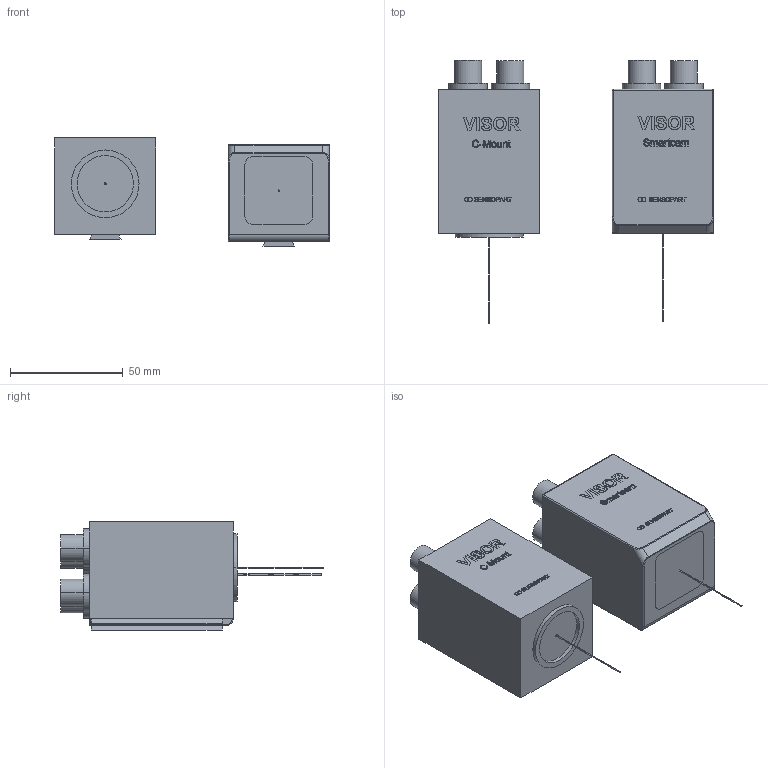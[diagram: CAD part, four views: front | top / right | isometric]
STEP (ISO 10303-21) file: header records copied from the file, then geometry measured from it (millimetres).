
FILE_DESCRIPTION((''),'2;1');
FILE_NAME('15300962.stp','2011-08-12T10:38:15',(''),(''),'Mechanical Desktop 2009','Mechanical Desktop 2009',', , ');
FILE_SCHEMA(('CONFIG_CONTROL_DESIGN'));
Length unit declared in the file: millimetre
Products named in the file (13): 15300591_XXX; FA45 SMARTCAM; ALUPROFIL; STECKER; FRONTSCHEIBE; OPTISCHE ACHSE; POTI; FA45 C-MOUNT; FA45 C-MOUNT_1; ~ALUPROFIL; ~STECKER; Beleuchtungsmodul1; _FA45_Zbau_martin
Assembly tree (17 placements, depth 4):
  15300591_XXX
    FA45 SMARTCAM
      ALUPROFIL
      STECKER  x3
      FRONTSCHEIBE
      OPTISCHE ACHSE
      POTI
    FA45 C-MOUNT
      FA45 C-MOUNT_1
        ~ALUPROFIL
        ~STECKER  x3
        OPTISCHE ACHSE
    Beleuchtungsmodul1
    _FA45_Zbau_martin
Bounding box: 122 x 116.7 x 48 mm (x, y, z)
Volume: 260972 mm3; surface area: 39930.2 mm2
Topology: 30 solids, 30 shells, 1208 faces, 3172 edges, 2108 vertices
Faces by surface type: bspline 591, plane 490, cylinder 121, sphere 4, torus 2
Entity records: 38983 total; most frequent: CARTESIAN_POINT 14069, ORIENTED_EDGE 6108, DIRECTION 3212, EDGE_CURVE 3054, VERTEX_POINT 2030, VECTOR 1682, LINE 1682, EDGE_LOOP 1224
